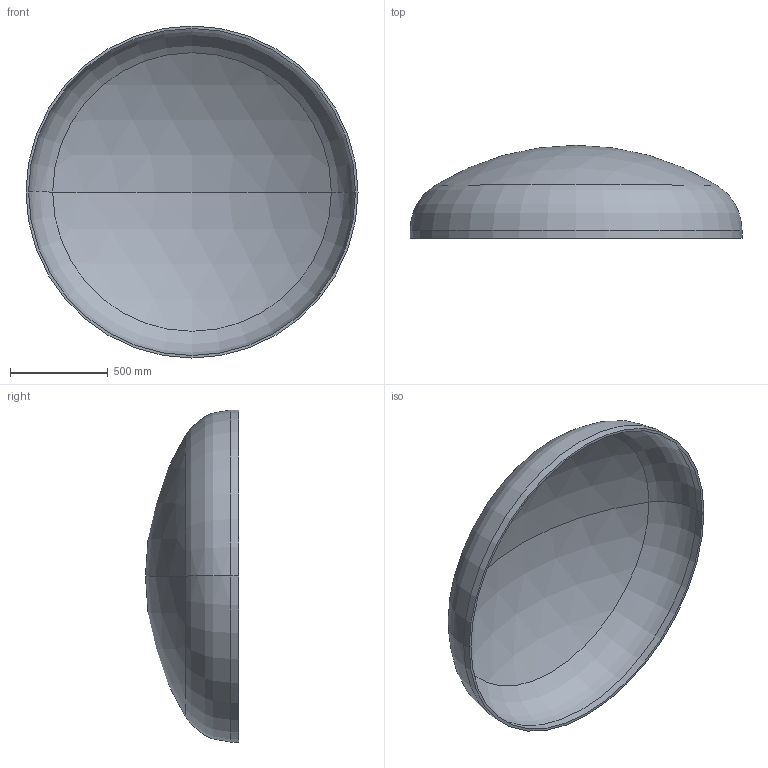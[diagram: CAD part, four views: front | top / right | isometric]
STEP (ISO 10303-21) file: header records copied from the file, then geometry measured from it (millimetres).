
FILE_DESCRIPTION (( 'STEP AP203' ), '1' );
FILE_NAME ('DIN 28013 Korbbogenform_-_Boden DIN 28013 - 1700 x 40 - I - s=13.step', '2016-07-01T11:37:48', ( '' ), ( '' ), 'SwSTEP 2.0', 'SolidWorks 2013', '' );
FILE_SCHEMA (( 'CONFIG_CONTROL_DESIGN' ));
Length unit declared in the file: millimetre
Products named in the file (1): DIN 28013 Korbbogenform_-_Boden DIN 28013 - 1700 x 40 - I - s=13
Bounding box: 1700 x 476.48 x 1700 mm (x, y, z)
Volume: 43158067.4 mm3; surface area: 6708952.4 mm2
Topology: 1 solids, 1 shells, 13 faces, 24 edges, 14 vertices
Faces by surface type: torus 4, cylinder 4, sphere 4, plane 1
Entity records: 407 total; most frequent: DIRECTION 72, CARTESIAN_POINT 52, ORIENTED_EDGE 48, AXIS2_PLACEMENT_3D 34, EDGE_CURVE 24, CIRCLE 20, EDGE_LOOP 14, VERTEX_POINT 14
